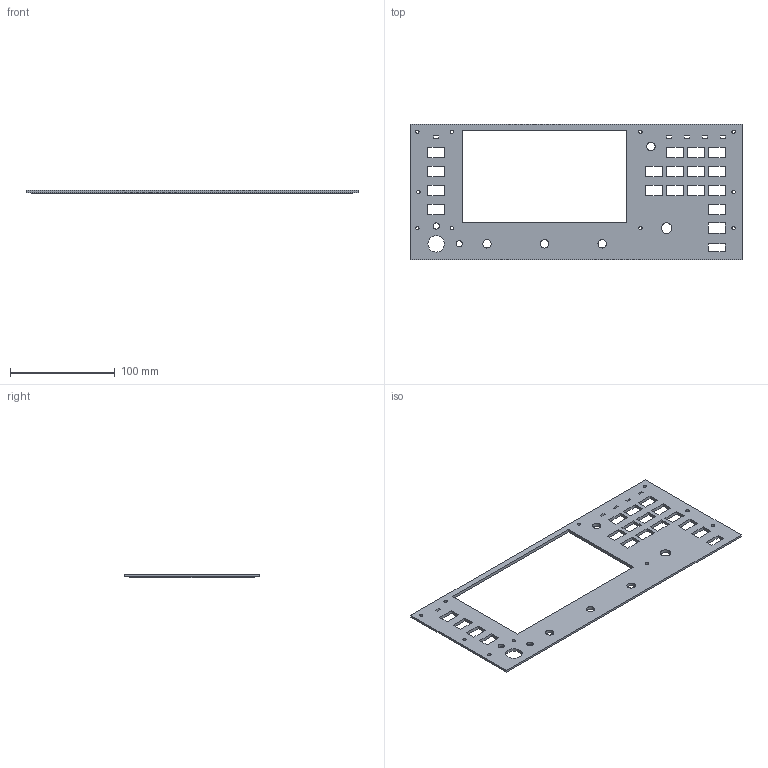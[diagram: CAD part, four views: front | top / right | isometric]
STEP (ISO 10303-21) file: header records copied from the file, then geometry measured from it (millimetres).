
FILE_DESCRIPTION (( 'STEP AP203' ), '1' );
FILE_NAME ('Enclosure Front Panel.STEP', '2025-12-11T19:41:59', ( '' ), ( '' ), 'SwSTEP 2.0', 'SolidWorks 2016', '' );
FILE_SCHEMA (( 'CONFIG_CONTROL_DESIGN' ));
Length unit declared in the file: millimetre
Products named in the file (1): Enclosure Front Panel
Bounding box: 317 x 129 x 3 mm (x, y, z)
Volume: 66363.1 mm3; surface area: 55217.2 mm2
Topology: 1 solids, 1 shells, 143 faces, 420 edges, 280 vertices
Faces by surface type: plane 107, cylinder 36
Entity records: 4971 total; most frequent: CARTESIAN_POINT 844, ORIENTED_EDGE 840, DIRECTION 780, EDGE_CURVE 420, LINE 348, VECTOR 348, VERTEX_POINT 280, EDGE_LOOP 228
